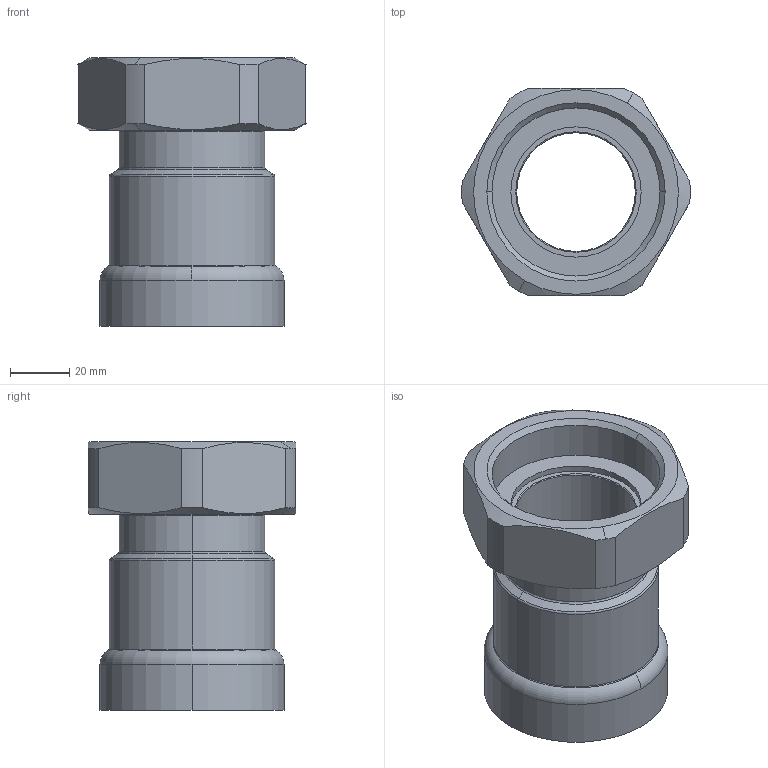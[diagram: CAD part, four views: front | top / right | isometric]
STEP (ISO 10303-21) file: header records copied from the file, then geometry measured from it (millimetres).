
FILE_DESCRIPTION(('Creo Elements/Direct Modeling STEP Export'),'2;1');
FILE_NAME('C9446_1-1-2_G2.stp','2020-07-20T15:35:50',(''),(''),'PTC Creo Elements/Direct Modeling STEP processor for AP214 (Solid Model)','PTC Creo Elements/Direct Modeling 19.0C 15-Aug-2015 (C) Parametric Technology GmbH','');
FILE_SCHEMA(('AUTOMOTIVE_DESIGN { 1 0 10303 214 1 1 1 1 }'));
Length unit declared in the file: millimetre
Products named in the file (2): C9446_1-1-2_G2
Assembly tree (1 placements, depth 2):
  C9446_1-1-2_G2
    C9446_1-1-2_G2
Bounding box: 76.96 x 70 x 90.52 mm (x, y, z)
Volume: 101609 mm3; surface area: 37899.3 mm2
Topology: 1 solids, 1 shells, 52 faces, 124 edges, 78 vertices
Faces by surface type: cylinder 20, plane 12, cone 10, torus 10
Entity records: 2407 total; most frequent: CARTESIAN_POINT 1198, ORIENTED_EDGE 248, DIRECTION 236, EDGE_CURVE 124, AXIS2_PLACEMENT_3D 100, VERTEX_POINT 78, EDGE_LOOP 58, FACE_OUTER_BOUND 52
